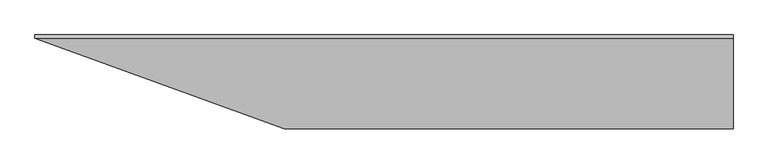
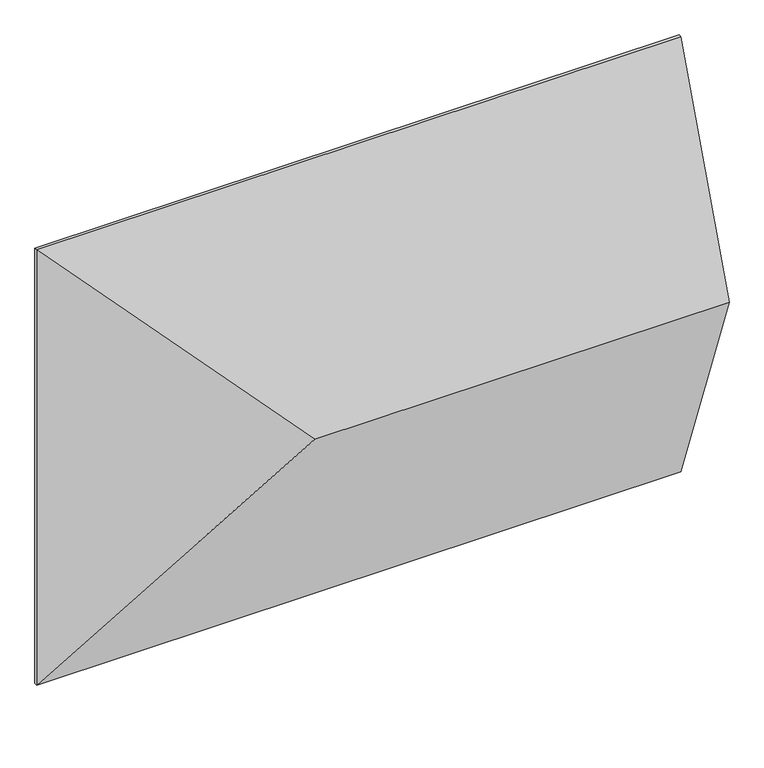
"""IFC4 building model written with IfcOpenShell, lengths in millimetres: proxy geometry, GRADIENT^TABLE 7_PYRAMID BASES-LEFT TOP."""

from ifc_helpers import new_model, si_unit, origin, place, context, project, spatial, faceted_brep, source, transform, mapped, element, save


def generic_models_d5f98654(model_context):
    return source(origin(), model_context, "Body", "Brep", [
        faceted_brep([(0.0, 22.225, -1524.0), (762.0, -255.1203185, -762.0), (0.0, 22.225, 0.0), (0.0, 31.75, -1524.0), (0.0, 31.75, 0.0), (2133.6, 31.75, 0.0), (2133.6, 31.75, -1524.0), (2133.6, -255.1203185, -762.0), (2133.6, 22.225, 0.0), (2133.6, 22.225, -1524.0)], [[[0, 1, 2]], [[3, 4, 5, 6]], [[1, 7, 8, 2]], [[7, 9, 6, 5, 8]], [[1, 0, 9, 7]], [[2, 8, 5, 4]], [[9, 0, 3, 6]], [[0, 2, 4, 3]]]),
    ])


if __name__ == "__main__":
    model = new_model("IFC4")
    model_context = context("Model", 3, world=origin())
    ifc_project = project(units=[si_unit("LENGTHUNIT", "METRE", prefix="MILLI")], contexts=[model_context])
    site = spatial("IfcSite", under=ifc_project)
    building = spatial("IfcBuilding", under=site)
    placement = place(None, origin())
    generic_models_shape = generic_models_d5f98654(model_context)
    element("IfcBuildingElementProxy", 1, Name="GRADIENT^TABLE 7_PYRAMID BASES-LEFT TOP", ObjectType="GRADIENT^TABLE 7_PYRAMID BASES-LEFT TOP", at=placement, inside=building, context=model_context, shape_type="MappedRepresentation", body=[
        mapped(generic_models_shape, transform((0.0, 0.0, 0.0), x_axis=(1.0, 0.0, 0.0), y_axis=(0.0, 1.0, 0.0), z_axis=(0.0, 0.0, 1.0))),
    ])
    save(model, "model.ifc")
